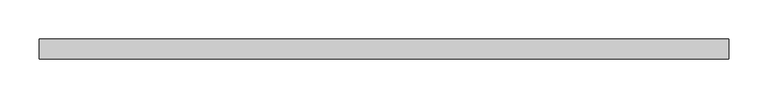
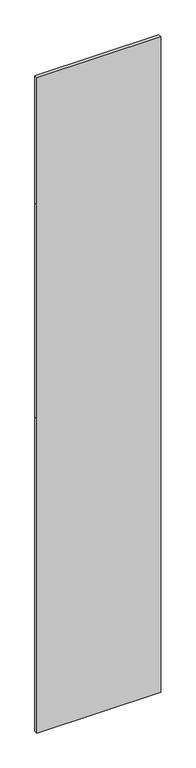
"""IFC4 building model written with IfcOpenShell, lengths in millimetres: plate geometry, Системная панель : ADSK_Cтеклопакет_25."""

from ifc_helpers import new_model, si_unit, frame, origin, place, context, project, spatial, polyline, outline, extrude, source, transform, mapped, element, save


def plate_bd87e464(model_context):
    return source(origin(), model_context, "Body", "SweptSolid", [
        extrude(outline(polyline([(0.0, -437.5), (0.0, 437.5), (2350.0, 437.5), (3950.0, 437.5), (4900.0, 437.5), (4900.0, -437.5), (3950.0, -437.5), (2350.0, -437.5), (0.0, -437.5)])), frame((0.0, -12.5, 0.0), z_axis=(0.0, 1.0, 0.0), x_axis=(0.0, 0.0, 1.0)), (0.0, 0.0, 1.0), 25.0),
    ])


if __name__ == "__main__":
    model = new_model("IFC4")
    model_context = context("Model", 3, world=origin())
    ifc_project = project(units=[si_unit("LENGTHUNIT", "METRE", prefix="MILLI")], contexts=[model_context])
    site = spatial("IfcSite", under=ifc_project)
    building = spatial("IfcBuilding", under=site)
    placement = place(None, origin())
    plate_shape = plate_bd87e464(model_context)
    element("IfcPlate", 1, ObjectType="Системная панель : ADSK_Cтеклопакет_25", at=placement, inside=building, context=model_context, shape_type="MappedRepresentation", body=[
        mapped(plate_shape, transform((0.0, 0.0, 0.0), x_axis=(1.0, 0.0, 0.0), y_axis=(0.0, 1.0, 0.0), z_axis=(0.0, 0.0, 1.0))),
    ])
    save(model, "model.ifc")
